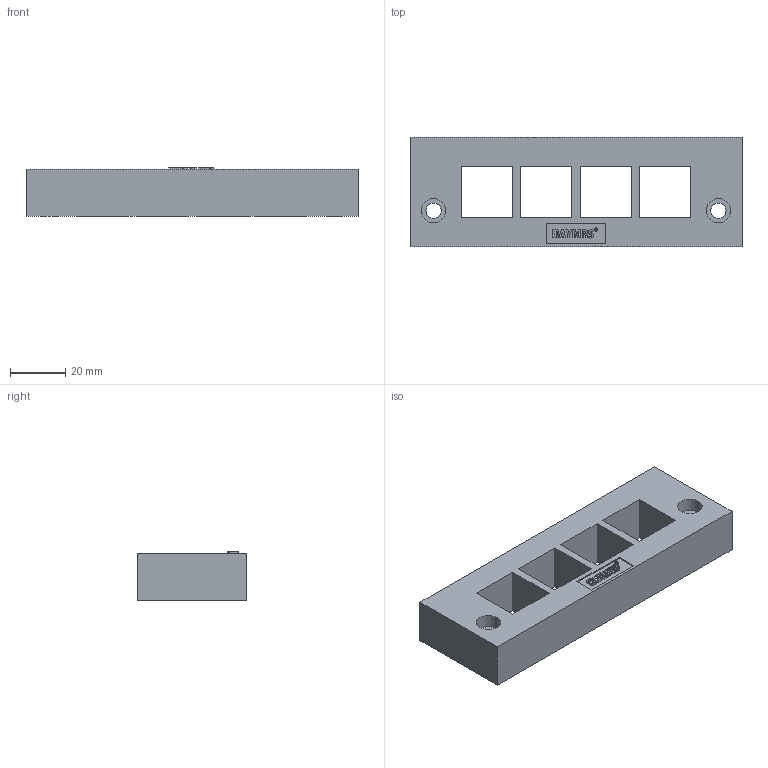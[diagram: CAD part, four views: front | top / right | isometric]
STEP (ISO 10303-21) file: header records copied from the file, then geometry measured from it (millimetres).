
FILE_DESCRIPTION(/* description */ (''),/* implementation_level */ '2;1');
FILE_NAME(/* name */ 'KEL-E4.stp',/* time_stamp */ '2020-03-11T09:37:54+08:00',/* author */ (''),/* organization */ (''),/* preprocessor_version */ 'ST-DEVELOPER v16.7',/* originating_system */ 'SIEMENS PLM Software NX 12.0',/* authorisation */ '');
FILE_SCHEMA (('AP203_CONFIGURATION_CONTROLLED_3D_DESIGN_OF_MECHANICAL_PARTS_AND_ASSEMBLIES_MIM_LF { 1 0 10303 403 2 1 2}'));
Length unit declared in the file: millimetre
Products named in the file (1): 914727605E8407b9
Bounding box: 120 x 39.5 x 17.5 mm (x, y, z)
Volume: 55997.6 mm3; surface area: 18016.6 mm2
Topology: 1 solids, 1 shells, 194 faces, 486 edges, 315 vertices
Faces by surface type: plane 157, extrusion 23, cylinder 12, torus 2
Full cylindrical faces by diameter (mm): 5.5 x2, 6.5 x2, 8.8 x2
Entity records: 7315 total; most frequent: CARTESIAN_POINT 2324, ORIENTED_EDGE 944, DIRECTION 775, EDGE_CURVE 472, VECTOR 379, LINE 356, VERTEX_POINT 311, EDGE_LOOP 237
